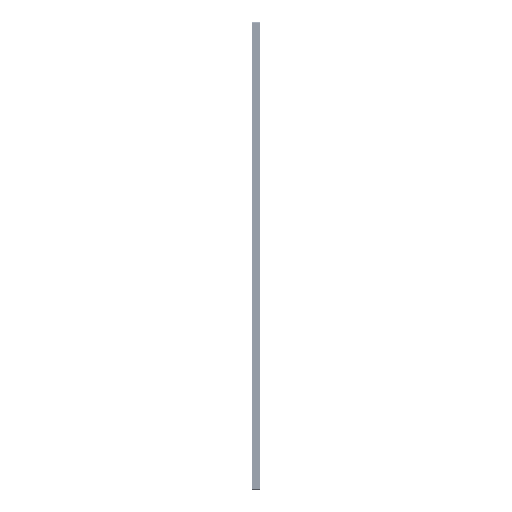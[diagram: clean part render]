
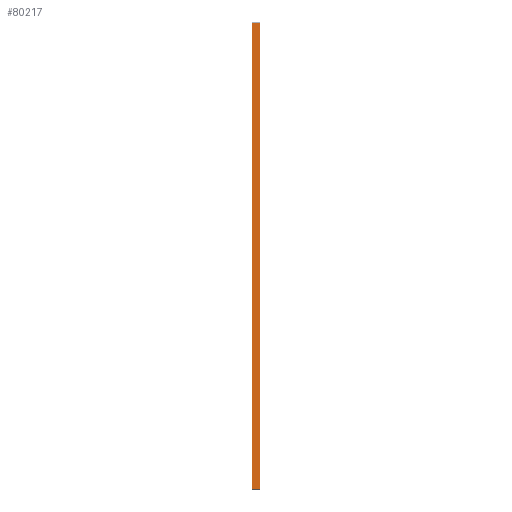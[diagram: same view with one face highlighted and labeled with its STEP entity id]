
A CAD part, front view. The second image highlights one B-rep face of the part: STEP entity #80217.
In plain terms, the highlighted planar face has unit normal (0, -1, 0).
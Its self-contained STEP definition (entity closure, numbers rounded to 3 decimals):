
#24611=FACE_OUTER_BOUND($,#34874,.T.);
#34874=EDGE_LOOP($,(#67871,#67872,#67873,#67874));
#47186=LINE($,#133627,#47226);
#47191=LINE($,#133636,#47231);
#47209=LINE($,#137768,#47249);
#47210=LINE($,#137771,#47250);
#47226=VECTOR($,#104856,13.);
#47231=VECTOR($,#104863,796.);
#47249=VECTOR($,#108995,796.);
#47250=VECTOR($,#109000,13.);
#49311=VERTEX_POINT($,#133624);
#49312=VERTEX_POINT($,#133626);
#49315=VERTEX_POINT($,#133634);
#51372=VERTEX_POINT($,#137766);
#57535=EDGE_CURVE($,#49311,#49312,#47186,.T.);
#57540=EDGE_CURVE($,#49315,#49311,#47191,.T.);
#59607=EDGE_CURVE($,#49312,#51372,#47209,.T.);
#59608=EDGE_CURVE($,#51372,#49315,#47210,.T.);
#67871=ORIENTED_EDGE($,*,*,#57540,.F.);
#67872=ORIENTED_EDGE($,*,*,#59608,.F.);
#67873=ORIENTED_EDGE($,*,*,#59607,.F.);
#67874=ORIENTED_EDGE($,*,*,#57535,.F.);
#80194=PLANE($,#90483);
#80217=ADVANCED_FACE($,(#24611),#80194,.T.);
#90483=AXIS2_PLACEMENT_3D($,#137770,#108998,#108999);
#104856=DIRECTION($,(1.,0.,0.));
#104863=DIRECTION($,(0.,0.,1.));
#108995=DIRECTION($,(0.,0.,-1.));
#108998=DIRECTION('center_axis',(0.,-1.,0.));
#108999=DIRECTION('ref_axis',(0.,0.,-1.));
#109000=DIRECTION($,(-1.,0.,0.));
#133624=CARTESIAN_POINT('',(1.,0.,798.));
#133626=CARTESIAN_POINT('',(14.,0.,798.));
#133627=CARTESIAN_POINT($,(0.,0.,798.));
#133634=CARTESIAN_POINT('',(1.,0.,2.));
#133636=CARTESIAN_POINT($,(1.,0.,600.));
#137766=CARTESIAN_POINT('',(14.,0.,2.));
#137768=CARTESIAN_POINT($,(14.,0.,600.));
#137770=CARTESIAN_POINT('Origin',(0.,0.,800.));
#137771=CARTESIAN_POINT($,(0.,0.,2.));
